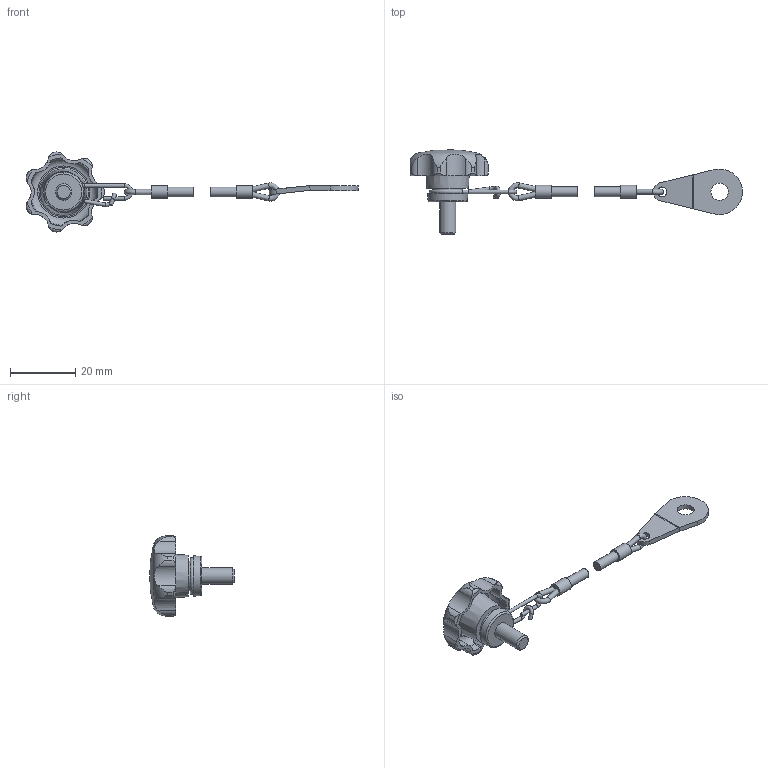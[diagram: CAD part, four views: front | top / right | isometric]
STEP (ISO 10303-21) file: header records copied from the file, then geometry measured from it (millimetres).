
FILE_DESCRIPTION( ( 'STEP AP203' ), '1' );
FILE_NAME( 'C:/Temp/Ganter_Step_05_03_2020/data/2_2/gn_6336_13/gn_6336_13_2/Star knob GN 6336.13-25-M5-10-H.stp', '2020-03-05T12:11:23', ( 'License CC BY-ND 4.0' ), ( 'CADENAS' ), ' ', 'PARTsolutions', ' ' );
FILE_SCHEMA( ( 'CONFIG_CONTROL_DESIGN' ) );
Length unit declared in the file: millimetre
Products named in the file (3): Star knob GN 6336.13-25-M5-10-H; _Star knob GN 6336.13-25-M5-10-H 6; _Star knob GN 111.2-200-14 h2
Assembly tree (2 placements, depth 2):
  Star knob GN 6336.13-25-M5-10-H
    _Star knob GN 6336.13-25-M5-10-H 6
    _Star knob GN 111.2-200-14 h2
Bounding box: 101.94 x 26 x 24.58 mm (x, y, z)
Volume: 3928.5 mm3; surface area: 3627 mm2
Topology: 2 solids, 2 shells, 137 faces, 376 edges, 244 vertices
Faces by surface type: cylinder 73, plane 32, torus 20, cone 11, sphere 1
Full cylindrical faces by diameter (mm): 1.1 x6, 1.6 x4, 3 x3, 4 x2, 5 x1, 5.3 x1, 9.1 x1
Entity records: 4849 total; most frequent: CARTESIAN_POINT 1530, DIRECTION 667, ORIENTED_EDGE 636, EDGE_CURVE 318, AXIS2_PLACEMENT_3D 287, VERTEX_POINT 230, EDGE_LOOP 189, FACE_OUTER_BOUND 167
